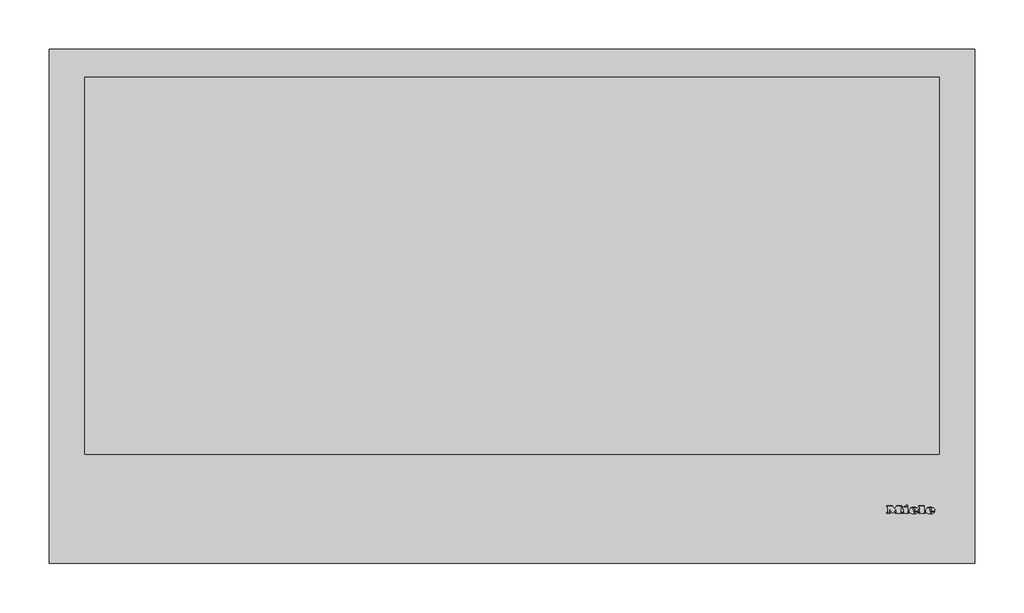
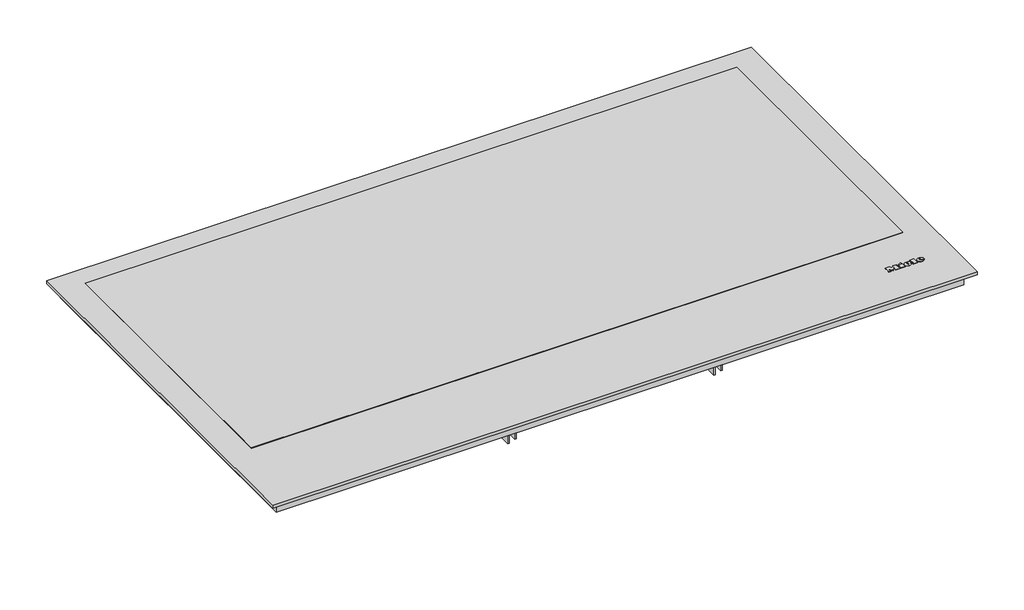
# Not in any storey: 1 proxy.
"""IFC4 building model written with IfcOpenShell, lengths in millimetres."""

import ifcopenshell
import ifcopenshell.guid

model = None  # the IFC model being written
_history = None  # IfcOwnerHistory: only IFC2X3 demands one
_inside = {}  # id of a spatial element -> (the spatial element, [elements in it])
_under = {}  # id of a project, library or spatial element -> (it, [spatial elements below it])
_declared = {}  # id of a project -> (the project, [libraries it declares])
_typed = {}  # id of a type object -> (the type object, [elements of that type])
_made_of = {}  # id of a material, layer set ... -> (it, [elements and type objects made of it])


def new_model(schema):
    """Start an empty IFC model of exactly this schema.

    Asked for "IFC4X3", IfcOpenShell would pick the latest addendum, in which some entities
    have other attributes; the version numbers below select the first issue.
    IFC2X3 requires an IfcOwnerHistory on every rooted entity: one is made here for all.
    """
    global model, _history
    if schema == "IFC4X3":
        model = ifcopenshell.file(schema_version=(4, 3, 0, 0))
    else:
        model = ifcopenshell.file(schema=schema)
    _inside.clear()
    _under.clear()
    _declared.clear()
    _typed.clear()
    _made_of.clear()
    _history = None
    if model.schema == "IFC2X3":
        org = make("IfcOrganization", Name="unknown")
        user = make(
            "IfcPersonAndOrganization",
            ThePerson=make("IfcPerson", FamilyName="unknown"),
            TheOrganization=org,
        )
        app = make(
            "IfcApplication",
            ApplicationDeveloper=org,
            Version="unknown",
            ApplicationFullName="unknown",
            ApplicationIdentifier="unknown",
        )
        _history = make(
            "IfcOwnerHistory",
            OwningUser=user,
            OwningApplication=app,
            ChangeAction="ADDED",
            CreationDate=0,
        )
    return model


def make(cls, **values):
    """One entity of the class cls with the attributes given. An attribute that is None is left unset."""
    return model.create_entity(
        cls, **{name: value for name, value in values.items() if value is not None}
    )


def rooted(cls, **values):
    """An entity with a GlobalId (a new one), such as an element, a storey or a relation."""
    return make(cls, GlobalId=ifcopenshell.guid.new(), OwnerHistory=_history, **values)


def si_unit(unit_type, name, prefix=None):
    """IfcSIUnit, for example si_unit("LENGTHUNIT", "METRE", prefix="MILLI")."""
    return make("IfcSIUnit", UnitType=unit_type, Prefix=prefix, Name=name)


def assignment(units):
    """IfcUnitAssignment: the units of a project."""
    return None if units is None else make("IfcUnitAssignment", Units=units)


def point(xyz):
    """IfcCartesianPoint."""
    return None if xyz is None else make("IfcCartesianPoint", Coordinates=xyz)


def direction(xyz):
    """IfcDirection."""
    return None if xyz is None else make("IfcDirection", DirectionRatios=xyz)


def frame(location, z_axis=None, x_axis=None):
    """IfcAxis2Placement3D, a coordinate frame: its origin and axes. An axis left out is left unset."""
    return make(
        "IfcAxis2Placement3D",
        Location=point(location),
        Axis=direction(z_axis),
        RefDirection=direction(x_axis),
    )


def frame_2d(location, x_axis=None):
    """IfcAxis2Placement2D, a coordinate frame in the plane: its origin and x axis."""
    return make(
        "IfcAxis2Placement2D", Location=point(location), RefDirection=direction(x_axis)
    )


def origin():
    """The frame at (0, 0, 0) with its axes left unset."""
    return frame((0.0, 0.0, 0.0))


def origin_with_axes():
    """The frame at (0, 0, 0) with the z axis (0, 0, 1) and the x axis (1, 0, 0) written out."""
    return frame((0.0, 0.0, 0.0), z_axis=(0.0, 0.0, 1.0), x_axis=(1.0, 0.0, 0.0))


def place(relative_to, where):
    """IfcLocalPlacement: puts the frame where relative to a parent placement (None: the world)."""
    return make(
        "IfcLocalPlacement", PlacementRelTo=relative_to, RelativePlacement=where
    )


def context(
    kind, dimensions, precision=None, world=None, true_north=None, identifier=None
):
    """IfcGeometricRepresentationContext, for example the 3D "Model" context."""
    return make(
        "IfcGeometricRepresentationContext",
        ContextIdentifier=identifier,
        ContextType=kind,
        CoordinateSpaceDimension=dimensions,
        Precision=precision,
        WorldCoordinateSystem=world,
        TrueNorth=true_north,
    )


def project(units=None, contexts=None):
    """IfcProject with its units and contexts."""
    return rooted(
        "IfcProject",
        Name="project",
        RepresentationContexts=contexts,
        UnitsInContext=assignment(units),
    )


def spatial(cls, under=None, at=None, **own):
    """A site, building, storey or space (cls), placed at a placement, below another one or the project."""
    s = rooted(cls, ObjectPlacement=at, **own)
    if under is not None:
        _under.setdefault(under.id(), (under, []))[1].append(s)
    return s


def polyline(points):
    """IfcPolyline through the points."""
    return make("IfcPolyline", Points=[point(p) for p in points])


def circle_curve(where, radius):
    """IfcCircle in the frame where."""
    return make("IfcCircle", Position=where, Radius=radius)


def ellipse_curve(where, semi_axis1, semi_axis2):
    """IfcEllipse in the frame where."""
    return make(
        "IfcEllipse", Position=where, SemiAxis1=semi_axis1, SemiAxis2=semi_axis2
    )


def trimmed(basis, trim1, trim2, sense, master):
    """IfcTrimmedCurve: the piece of a basis curve between two trims."""
    return make(
        "IfcTrimmedCurve",
        BasisCurve=basis,
        Trim1=trim1,
        Trim2=trim2,
        SenseAgreement=sense,
        MasterRepresentation=master,
    )


def segment(curve, same_sense, transition):
    """IfcCompositeCurveSegment."""
    return make(
        "IfcCompositeCurveSegment",
        Transition=transition,
        SameSense=same_sense,
        ParentCurve=curve,
    )


def composite_curve(segments, self_intersect=None):
    """IfcCompositeCurve: segments joined end to end."""
    return make("IfcCompositeCurve", Segments=segments, SelfIntersect=self_intersect)


def outline(outer, holes=None, kind="AREA"):
    """IfcArbitraryClosedProfileDef: a profile drawn as a closed curve; with holes, ...WithVoids."""
    if holes is None:
        return make("IfcArbitraryClosedProfileDef", ProfileType=kind, OuterCurve=outer)
    return make(
        "IfcArbitraryProfileDefWithVoids",
        ProfileType=kind,
        OuterCurve=outer,
        InnerCurves=holes,
    )


def extrude(swept, where, along, depth):
    """IfcExtrudedAreaSolid: the profile swept, set in the frame where, extruded along a direction by depth."""
    return make(
        "IfcExtrudedAreaSolid",
        SweptArea=swept,
        Position=where,
        ExtrudedDirection=direction(along),
        Depth=depth,
    )


def shape(context_of_items, identifier, shape_type, items):
    """IfcShapeRepresentation: the items that make up one representation, for example the "Body"."""
    return make(
        "IfcShapeRepresentation",
        ContextOfItems=context_of_items,
        RepresentationIdentifier=identifier,
        RepresentationType=shape_type,
        Items=items,
    )


def source(mapping_origin, context_of_items, identifier, shape_type, items):
    """IfcRepresentationMap: a shape defined once, which mapped items show again and again."""
    return make(
        "IfcRepresentationMap",
        MappingOrigin=mapping_origin,
        MappedRepresentation=shape(context_of_items, identifier, shape_type, items),
    )


def transform(
    local_origin,
    x_axis=None,
    y_axis=None,
    z_axis=None,
    scale=None,
    scale2=None,
    scale3=None,
    uniform=True,
):
    """IfcCartesianTransformationOperator3D, or its non-uniform kind. x_axis, y_axis, z_axis: its Axis1, 2, 3."""
    if uniform:
        return make(
            "IfcCartesianTransformationOperator3D",
            Axis1=direction(x_axis),
            Axis2=direction(y_axis),
            LocalOrigin=point(local_origin),
            Scale=scale,
            Axis3=direction(z_axis),
        )
    return make(
        "IfcCartesianTransformationOperator3DnonUniform",
        Axis1=direction(x_axis),
        Axis2=direction(y_axis),
        LocalOrigin=point(local_origin),
        Scale=scale,
        Axis3=direction(z_axis),
        Scale2=scale2,
        Scale3=scale3,
    )


def mapped(mapping_source, mapping_target):
    """IfcMappedItem: shows the shape of a source again, moved by a transform."""
    return make(
        "IfcMappedItem", MappingSource=mapping_source, MappingTarget=mapping_target
    )


def made_of(thing, what):
    """Note that an element or type object is made of a material, layer set ...; save() writes the relation."""
    if what is not None:
        _made_of.setdefault(what.id(), (what, []))[1].append(thing)
    return thing


def element(
    cls,
    number,
    at=None,
    inside=None,
    cuts=None,
    type_object=None,
    material=None,
    context=None,
    identifier="Body",
    shape_type=None,
    held_by="IfcProductDefinitionShape",
    body=None,
    shapes=None,
    **own,
):
    """One element of the class cls, such as IfcWall. Its Tag is "e" and its number.

    at: its placement. inside: the storey or other place that contains it. cuts: it is an
    opening in that element (IfcRelVoidsElement). A single representation is given by context,
    identifier, shape_type and body (its items); several are given by shapes. held_by: the class
    of the entity that holds the representations. save() writes the other relations.
    """
    e = rooted(cls, Tag="e%d" % number, ObjectPlacement=at, **own)
    if body is not None:
        shapes = [shape(context, identifier, shape_type, body)]
    if shapes is not None:
        e.Representation = make(held_by, Representations=shapes)
    if inside is not None:
        _inside.setdefault(inside.id(), (inside, []))[1].append(e)
    if cuts is not None:
        rooted(
            "IfcRelVoidsElement", RelatingBuildingElement=cuts, RelatedOpeningElement=e
        )
    if type_object is not None:
        _typed.setdefault(type_object.id(), (type_object, []))[1].append(e)
    return made_of(e, material)


def aggregate(whole, parts):
    """IfcRelAggregates: a whole, such as a stair, and the parts it consists of."""
    return rooted("IfcRelAggregates", RelatingObject=whole, RelatedObjects=parts)


def save(model, path):
    """Write the relations noted so far, then the file.

    IfcRelAggregates (storeys below a building ...), IfcRelContainedInSpatialStructure (elements
    in a storey), IfcRelDefinesByType, IfcRelAssociatesMaterial and IfcRelDeclares: one each for
    every whole, place, type object, material and project.
    """
    for whole, parts in _under.values():
        aggregate(whole, parts)
    for where, things in _inside.values():
        rooted(
            "IfcRelContainedInSpatialStructure",
            RelatedElements=things,
            RelatingStructure=where,
        )
    for kind, things in _typed.values():
        rooted("IfcRelDefinesByType", RelatedObjects=things, RelatingType=kind)
    for what, things in _made_of.values():
        rooted("IfcRelAssociatesMaterial", RelatedObjects=things, RelatingMaterial=what)
    for by, libraries in _declared.values():
        rooted("IfcRelDeclares", RelatingContext=by, RelatedDefinitions=libraries)
    model.write(path)


def plane_surface(at):
    """IfcPlane: the flat surface through the origin of the frame at, square to its z axis."""
    return make("IfcPlane", Position=at)


def cylinder_surface(at, radius):
    """IfcCylindricalSurface: all points at the distance radius from the z axis of the frame at."""
    return make("IfcCylindricalSurface", Position=at, Radius=radius)


def revolved_surface(curve, axis_point, axis_direction):
    """IfcSurfaceOfRevolution: the curve turned about the line through axis_point along axis_direction."""
    return make(
        "IfcSurfaceOfRevolution",
        SweptCurve=make("IfcArbitraryOpenProfileDef", ProfileType="CURVE", Curve=curve),
        AxisPosition=make("IfcAxis1Placement", Location=point(axis_point), Axis=direction(axis_direction)),
    )


def extruded_surface(curve, direction_of_extrusion, depth):
    """IfcSurfaceOfLinearExtrusion: the curve pushed along a direction by depth."""
    return make(
        "IfcSurfaceOfLinearExtrusion",
        SweptCurve=make("IfcArbitraryOpenProfileDef", ProfileType="CURVE", Curve=curve),
        ExtrudedDirection=direction(direction_of_extrusion),
        Depth=depth,
    )


def advanced_brep(points, edges, surfaces, faces):
    """IfcAdvancedBrep: a solid bounded by faces that lie on surfaces and meet in shared edges.

    An edge is (start, end): straight between two places in points (the first is 0);
    or (start, end, curve); or (start, end, curve, False) where it runs against its curve.
    A face is (place in surfaces, loops), or (place, loops, False) where it looks against
    its surface's normal. A loop lists edges by number (the first is 1), with a minus sign
    where the edge is run from its end to its start. The first loop is the outer one.
    """
    corners = [point(p) for p in points]
    vertices = [make("IfcVertexPoint", VertexGeometry=c) for c in corners]
    made = []
    for start, end, *more in edges:
        made.append(
            make(
                "IfcEdgeCurve",
                EdgeStart=vertices[start],
                EdgeEnd=vertices[end],
                EdgeGeometry=more[0] if more else make("IfcPolyline", Points=[corners[start], corners[end]]),
                SameSense=more[1] if len(more) > 1 else True,
            )
        )
    hull = []
    for where, loops, *sense in faces:
        bounds = []
        for j, loop in enumerate(loops):
            ring = [make("IfcOrientedEdge", EdgeElement=made[abs(k) - 1], Orientation=k > 0) for k in loop]
            bounds.append(
                make(
                    "IfcFaceOuterBound" if j == 0 else "IfcFaceBound",
                    Bound=make("IfcEdgeLoop", EdgeList=ring),
                    Orientation=True,
                )
            )
        hull.append(make("IfcAdvancedFace", Bounds=bounds, FaceSurface=surfaces[where], SameSense=sense[0] if sense else True))
    return make("IfcAdvancedBrep", Outer=make("IfcClosedShell", CfsFaces=hull))


def specialty_equipment_1c5c3643(model_context):
    return source(origin(), model_context, "Body", "SolidModel", [
        advanced_brep(
        [(422.56, 52.3948833, 4.4802537), (422.56, 53.2028828, 4.4811551), (427.912, 53.2028828, 4.4811551), (418.6, 53.2028828, 4.4811551), (420.8, 50.4988845, 4.4781386), (427.776, 52.3948833, 4.4802537), (425.36, 52.3948833, 4.4802537), (423.456, 51.4988838, 4.4792542), (422.56, 54.2268821, 4.4822974), (422.56, 55.0988816, 4.4832701), (423.928, 55.0988816, 4.4832701), (423.928, 54.2268821, 4.4822974), (422.56, 52.3959988, 3.4802543), (423.456, 51.4999994, 3.4792548), (425.36, 52.3959988, 3.4802543), (427.776, 52.3959988, 3.4802543), (420.8, 50.5, 3.4781393), (418.6, 53.2039983, 3.4811557), (427.912, 53.2039983, 3.4811557), (422.56, 53.2039983, 3.4811557), (422.56, 54.2279977, 3.482298), (423.928, 54.2279977, 3.482298), (423.928, 55.0999971, 3.4832707), (422.56, 55.0999971, 3.4832707)],
        [
            (0, 1),
            (1, 2),
            (2, 3, ellipse_curve(frame((423.256, 53.2028828, 4.4811551), z_axis=(0.0, -0.0011155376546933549, 0.9999993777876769), x_axis=(-1.0, 0.0, 0.0)), 4.656, 3.848)),
            (3, 4, circle_curve(frame((421.6960436, 53.4748826, 4.4814585), z_axis=(0.0, -0.0011155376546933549, 0.9999993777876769), x_axis=(0.0, -0.9999993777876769, -0.0011155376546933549)), 3.1079688)),
            (4, 5, circle_curve(frame((423.1627936, 55.5868813, 4.4838145), z_axis=(0.0, -0.0011155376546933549, 0.9999993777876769), x_axis=(0.0, -0.9999993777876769, -0.0011155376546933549)), 5.6098607)),
            (5, 6),
            (6, 7, circle_curve(frame((423.8470588, 53.1388828, 4.4810837), z_axis=(0.0, 0.0011155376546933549, -0.9999993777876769), x_axis=(0.0, -0.9999993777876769, -0.0011155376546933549)), 1.6859795)),
            (7, 0, circle_curve(frame((423.456, 52.3948833, 4.4802537), z_axis=(0.0, 0.0011155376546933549, -0.9999993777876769), x_axis=(0.0, -0.9999993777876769, -0.0011155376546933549)), 0.896)),
            (8, 9),
            (9, 10, circle_curve(frame((423.244, 55.0988816, 4.4832701), z_axis=(0.0, 0.0011155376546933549, -0.9999993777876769), x_axis=(0.0, -0.9999993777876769, -0.0011155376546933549)), 0.684)),
            (10, 11),
            (11, 8),
            (12, 13, circle_curve(frame((423.456, 52.3959988, 3.4802543), z_axis=(0.0, -0.0011155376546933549, 0.9999993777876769), x_axis=(0.0, -0.9999993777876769, -0.0011155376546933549)), 0.896)),
            (13, 14, circle_curve(frame((423.8470588, 53.1399984, 3.4810843), z_axis=(0.0, -0.0011155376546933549, 0.9999993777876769), x_axis=(0.0, -0.9999993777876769, -0.0011155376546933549)), 1.6859795)),
            (14, 15),
            (15, 16, circle_curve(frame((423.1627936, 55.5879968, 3.4838151), z_axis=(0.0, 0.0011155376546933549, -0.9999993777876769), x_axis=(0.0, -0.9999993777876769, -0.0011155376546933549)), 5.6098607)),
            (16, 17, circle_curve(frame((421.6960436, 53.4759981, 3.4814591), z_axis=(0.0, 0.0011155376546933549, -0.9999993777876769), x_axis=(0.0, -0.9999993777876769, -0.0011155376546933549)), 3.1079688)),
            (17, 18, ellipse_curve(frame((423.256, 53.2039983, 3.4811557), z_axis=(0.0, 0.0011155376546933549, -0.9999993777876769), x_axis=(-1.0, 0.0, 0.0)), 4.656, 3.848)),
            (18, 19),
            (19, 12),
            (20, 21),
            (21, 22),
            (22, 23, circle_curve(frame((423.244, 55.0999971, 3.4832707), z_axis=(0.0, -0.0011155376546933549, 0.9999993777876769), x_axis=(0.0, -0.9999993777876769, -0.0011155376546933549)), 0.684)),
            (23, 20),
            (0, 12),
            (19, 1),
            (18, 2),
            (5, 15),
            (14, 6),
            (17, 3),
            (13, 7),
            (16, 4),
            (8, 20),
            (23, 9),
            (22, 10),
            (21, 11),
        ],
        [
            plane_surface(frame((422.56, 53.2028828, 4.4811551), z_axis=(0.0, -0.0011155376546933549, 0.9999993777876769), x_axis=(0.0, 0.9999993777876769, 0.0011155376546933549))),
            plane_surface(frame((422.56, 53.2039983, 3.4811557), z_axis=(0.0, 0.0011155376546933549, -0.9999993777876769), x_axis=(0.0, -0.9999993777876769, -0.0011155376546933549))),
            plane_surface(frame((422.56, 52.3948833, 4.4802537), z_axis=(1.0000000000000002, 0.0, 0.0), x_axis=(0.0, 0.001115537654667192, -0.999999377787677))),
            plane_surface(frame((422.56, 53.2028828, 4.4811551), z_axis=(0.0, -0.999999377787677, -0.001115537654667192), x_axis=(0.0, 0.001115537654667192, -0.999999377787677))),
            plane_surface(frame((427.776, 52.3948833, 4.4802537), z_axis=(0.0, 0.999999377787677, 0.001115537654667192), x_axis=(0.0, 0.001115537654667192, -0.999999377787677))),
            extruded_surface(trimmed(ellipse_curve(frame((423.256, 53.2051139, 2.4811563), z_axis=(0.0, -0.0011155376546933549, 0.9999993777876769), x_axis=(-1.0, 0.0, 0.0)), 4.656, 3.848), [point((427.912, 53.2051139, 2.4811563))], [point((418.6, 53.2051139, 2.4811563))], True, "CARTESIAN"), (0.0, -0.001115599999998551, 0.9999994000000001), 1.00000002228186),
            revolved_surface(polyline([(423.8470588, 51.454019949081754, 3.479203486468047), (423.8470588, 51.45290441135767, 4.4792029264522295)]), (423.8470588, 53.1399984, 3.4810843), (0.0, 0.0011155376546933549, -0.9999993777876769)),
            revolved_surface(polyline([(423.456, 51.49999935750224, 3.4792547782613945), (423.456, 51.49888381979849, 4.479254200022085)]), (423.456, 52.3959988, 3.4802543), (0.0, 0.0011155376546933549, -0.9999993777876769)),
            cylinder_surface(frame((421.6960436, 53.4759981, 3.4814591), z_axis=(0.0, -0.0011155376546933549, 0.9999993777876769), x_axis=(0.0, -0.9999993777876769, -0.0011155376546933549)), 3.1079688),
            cylinder_surface(frame((423.1627936, 55.5879968, 3.4838151), z_axis=(0.0, -0.0011155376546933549, 0.9999993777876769), x_axis=(0.0, -0.9999993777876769, -0.0011155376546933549)), 5.6098607),
            plane_surface(frame((422.56, 54.2268821, 4.4822974), z_axis=(1.0000000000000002, 0.0, 0.0), x_axis=(0.0, 0.001115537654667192, -0.999999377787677))),
            revolved_surface(polyline([(423.244, 54.415997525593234, 3.4825076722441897), (423.244, 54.41488198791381, 4.482507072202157)]), (423.244, 55.0999971, 3.4832707), (0.0, 0.0011155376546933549, -0.9999993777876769)),
            plane_surface(frame((423.928, 55.0988816, 4.4832701), z_axis=(-1.0000000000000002, 0.0, 0.0), x_axis=(0.0, 0.001115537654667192, -0.999999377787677))),
            plane_surface(frame((423.928, 54.2268821, 4.4822974), z_axis=(0.0, 0.999999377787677, 0.001115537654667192), x_axis=(0.0, 0.001115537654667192, -0.999999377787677))),
        ],
        [
            (0, [[1, 2, 3, 4, 5, 6, 7, 8], [9, 10, 11, 12]]),
            (1, [[13, 14, 15, 16, 17, 18, 19, 20], [21, 22, 23, 24]]),
            (2, [[-1, 25, -20, 26]]),
            (3, [[-2, -26, -19, 27]]),
            (4, [[-6, 28, -15, 29]]),
            (5, [[-3, -27, -18, 30]]),
            (6, [[-7, -29, -14, 31]]),
            (7, [[-8, -31, -13, -25]]),
            (8, [[-4, -30, -17, 32]]),
            (9, [[-5, -32, -16, -28]]),
            (10, [[-9, 33, -24, 34]]),
            (11, [[-10, -34, -23, 35]]),
            (12, [[-11, -35, -22, 36]]),
            (13, [[-12, -36, -21, -33]]),
        ],
    ),
        advanced_brep(
        [(405.864, 52.3948833, 4.4802537), (405.864, 53.2028828, 4.4811551), (411.216, 53.2028828, 4.4811551), (401.904, 53.2028828, 4.4811551), (404.104, 50.4988845, 4.4781386), (411.08, 52.3948833, 4.4802537), (408.664, 52.3948833, 4.4802537), (406.76, 51.4988838, 4.4792542), (405.864, 54.2268821, 4.4822974), (405.864, 55.0988816, 4.4832701), (407.232, 55.0988816, 4.4832701), (407.232, 54.2268821, 4.4822974), (405.864, 52.3959988, 3.4802543), (406.76, 51.4999994, 3.4792548), (408.664, 52.3959988, 3.4802543), (411.08, 52.3959988, 3.4802543), (404.104, 50.5, 3.4781393), (401.904, 53.2039983, 3.4811557), (411.216, 53.2039983, 3.4811557), (405.864, 53.2039983, 3.4811557), (405.864, 54.2279977, 3.482298), (407.232, 54.2279977, 3.482298), (407.232, 55.0999971, 3.4832707), (405.864, 55.0999971, 3.4832707)],
        [
            (0, 1),
            (1, 2),
            (2, 3, ellipse_curve(frame((406.56, 53.2028828, 4.4811551), z_axis=(0.0, -0.0011155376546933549, 0.9999993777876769), x_axis=(-1.0, 0.0, 0.0)), 4.656, 3.848)),
            (3, 4, circle_curve(frame((405.0000436, 53.4748826, 4.4814585), z_axis=(0.0, -0.0011155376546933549, 0.9999993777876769), x_axis=(0.0, -0.9999993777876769, -0.0011155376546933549)), 3.1079688)),
            (4, 5, circle_curve(frame((406.4667936, 55.5868813, 4.4838145), z_axis=(0.0, -0.0011155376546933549, 0.9999993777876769), x_axis=(0.0, -0.9999993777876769, -0.0011155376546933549)), 5.6098607)),
            (5, 6),
            (6, 7, circle_curve(frame((407.1510588, 53.1388828, 4.4810837), z_axis=(0.0, 0.0011155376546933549, -0.9999993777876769), x_axis=(0.0, -0.9999993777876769, -0.0011155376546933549)), 1.6859795)),
            (7, 0, circle_curve(frame((406.76, 52.3948833, 4.4802537), z_axis=(0.0, 0.0011155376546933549, -0.9999993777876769), x_axis=(0.0, -0.9999993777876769, -0.0011155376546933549)), 0.896)),
            (8, 9),
            (9, 10, circle_curve(frame((406.548, 55.0988816, 4.4832701), z_axis=(0.0, 0.0011155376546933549, -0.9999993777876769), x_axis=(0.0, -0.9999993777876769, -0.0011155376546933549)), 0.684)),
            (10, 11),
            (11, 8),
            (12, 13, circle_curve(frame((406.76, 52.3959988, 3.4802543), z_axis=(0.0, -0.0011155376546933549, 0.9999993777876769), x_axis=(0.0, -0.9999993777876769, -0.0011155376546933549)), 0.896)),
            (13, 14, circle_curve(frame((407.1510588, 53.1399984, 3.4810843), z_axis=(0.0, -0.0011155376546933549, 0.9999993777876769), x_axis=(0.0, -0.9999993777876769, -0.0011155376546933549)), 1.6859795)),
            (14, 15),
            (15, 16, circle_curve(frame((406.4667936, 55.5879968, 3.4838151), z_axis=(0.0, 0.0011155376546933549, -0.9999993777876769), x_axis=(0.0, -0.9999993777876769, -0.0011155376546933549)), 5.6098607)),
            (16, 17, circle_curve(frame((405.0000436, 53.4759981, 3.4814591), z_axis=(0.0, 0.0011155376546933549, -0.9999993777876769), x_axis=(0.0, -0.9999993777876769, -0.0011155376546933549)), 3.1079688)),
            (17, 18, ellipse_curve(frame((406.56, 53.2039983, 3.4811557), z_axis=(0.0, 0.0011155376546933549, -0.9999993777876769), x_axis=(-1.0, 0.0, 0.0)), 4.656, 3.848)),
            (18, 19),
            (19, 12),
            (20, 21),
            (21, 22),
            (22, 23, circle_curve(frame((406.548, 55.0999971, 3.4832707), z_axis=(0.0, -0.0011155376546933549, 0.9999993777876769), x_axis=(0.0, -0.9999993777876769, -0.0011155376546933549)), 0.684)),
            (23, 20),
            (0, 12),
            (19, 1),
            (18, 2),
            (5, 15),
            (14, 6),
            (17, 3),
            (13, 7),
            (16, 4),
            (8, 20),
            (23, 9),
            (22, 10),
            (21, 11),
        ],
        [
            plane_surface(frame((405.864, 53.2028828, 4.4811551), z_axis=(0.0, -0.0011155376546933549, 0.9999993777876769), x_axis=(0.0, 0.9999993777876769, 0.0011155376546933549))),
            plane_surface(frame((405.864, 53.2039983, 3.4811557), z_axis=(0.0, 0.0011155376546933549, -0.9999993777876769), x_axis=(0.0, -0.9999993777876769, -0.0011155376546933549))),
            plane_surface(frame((405.864, 52.3948833, 4.4802537), z_axis=(1.0000000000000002, 0.0, 0.0), x_axis=(0.0, 0.001115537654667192, -0.999999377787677))),
            plane_surface(frame((405.864, 53.2028828, 4.4811551), z_axis=(0.0, -0.999999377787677, -0.001115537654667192), x_axis=(0.0, 0.001115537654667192, -0.999999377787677))),
            plane_surface(frame((411.08, 52.3948833, 4.4802537), z_axis=(0.0, 0.999999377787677, 0.001115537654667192), x_axis=(0.0, 0.001115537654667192, -0.999999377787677))),
            extruded_surface(trimmed(ellipse_curve(frame((406.56, 53.2051139, 2.4811563), z_axis=(0.0, -0.0011155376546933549, 0.9999993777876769), x_axis=(-1.0, 0.0, 0.0)), 4.656, 3.848), [point((411.216, 53.2051139, 2.4811563))], [point((401.904, 53.2051139, 2.4811563))], True, "CARTESIAN"), (0.0, -0.001115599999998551, 0.9999994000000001), 1.00000002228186),
            revolved_surface(polyline([(407.1510588, 51.454019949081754, 3.479203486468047), (407.1510588, 51.45290441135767, 4.4792029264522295)]), (407.1510588, 53.1399984, 3.4810843), (0.0, 0.0011155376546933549, -0.9999993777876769)),
            revolved_surface(polyline([(406.76, 51.49999935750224, 3.4792547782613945), (406.76, 51.49888381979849, 4.479254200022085)]), (406.76, 52.3959988, 3.4802543), (0.0, 0.0011155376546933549, -0.9999993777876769)),
            cylinder_surface(frame((405.0000436, 53.4759981, 3.4814591), z_axis=(0.0, -0.0011155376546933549, 0.9999993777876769), x_axis=(0.0, -0.9999993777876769, -0.0011155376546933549)), 3.1079688),
            cylinder_surface(frame((406.4667936, 55.5879968, 3.4838151), z_axis=(0.0, -0.0011155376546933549, 0.9999993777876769), x_axis=(0.0, -0.9999993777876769, -0.0011155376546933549)), 5.6098607),
            plane_surface(frame((405.864, 54.2268821, 4.4822974), z_axis=(1.0000000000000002, 0.0, 0.0), x_axis=(0.0, 0.001115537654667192, -0.999999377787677))),
            revolved_surface(polyline([(406.548, 54.415997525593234, 3.4825076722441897), (406.548, 54.41488198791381, 4.482507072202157)]), (406.548, 55.0999971, 3.4832707), (0.0, 0.0011155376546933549, -0.9999993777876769)),
            plane_surface(frame((407.232, 55.0988816, 4.4832701), z_axis=(-1.0000000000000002, 0.0, 0.0), x_axis=(0.0, 0.001115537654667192, -0.999999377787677))),
            plane_surface(frame((407.232, 54.2268821, 4.4822974), z_axis=(0.0, 0.999999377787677, 0.001115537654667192), x_axis=(0.0, 0.001115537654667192, -0.999999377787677))),
        ],
        [
            (0, [[1, 2, 3, 4, 5, 6, 7, 8], [9, 10, 11, 12]]),
            (1, [[13, 14, 15, 16, 17, 18, 19, 20], [21, 22, 23, 24]]),
            (2, [[-1, 25, -20, 26]]),
            (3, [[-2, -26, -19, 27]]),
            (4, [[-6, 28, -15, 29]]),
            (5, [[-3, -27, -18, 30]]),
            (6, [[-7, -29, -14, 31]]),
            (7, [[-8, -31, -13, -25]]),
            (8, [[-4, -30, -17, 32]]),
            (9, [[-5, -32, -16, -28]]),
            (10, [[-9, 33, -24, 34]]),
            (11, [[-10, -34, -23, 35]]),
            (12, [[-11, -35, -22, 36]]),
            (13, [[-12, -36, -21, -33]]),
        ],
    ),
        extrude(outline(polyline([(0.0, 0.0), (-0.0109086, -2.9993294), (-1.4390415, -2.9920868), (-1.4315307, 0.0), (0.0, 0.0)])), frame((397.12, 58.0279953, 3.486537), z_axis=(0.0, -0.001115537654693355, 0.999999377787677), x_axis=(-0.4247202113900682, 0.9053240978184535, 0.0010099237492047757)), (0.0, 0.0, 1.0), 1.0),
        extrude(outline(polyline([(-0.4933908, 2.4141097), (-2.7800844, -2.4601583), (-7.0459741, -0.4588767), (-7.4401145, -1.299018), (-8.6568709, -0.728194), (-5.9760369, 4.9862153), (-4.7592805, 4.4153913), (-5.1636142, 3.5535222), (-2.1941493, 2.1604399), (-1.7898157, 3.022309), (-0.4933908, 2.4141097)])), frame((397.12, 58.0279953, 3.486537), z_axis=(0.0, -0.001115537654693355, 0.999999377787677), x_axis=(-0.4247202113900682, 0.9053240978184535, 0.0010099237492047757)), (0.0, 0.0, 1.0), 1.0),
        extrude(outline(polyline([(0.0, 0.0), (0.0, -1.304), (-5.504, -1.304), (-5.504, 5.3519999), (-6.488, 5.3519999), (-6.488, 6.696), (0.0, 6.696), (0.0, 5.3519999), (-0.96, 5.3519999), (-0.96, 0.0), (0.0, 0.0)])), frame((411.664, 57.1959958, 3.4856089), z_axis=(0.0, -0.0011155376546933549, 0.9999993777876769), x_axis=(-1.0, 0.0, 0.0)), (0.0, 0.0, 1.0), 1.0),
        extrude(outline(polyline([(0.0, 0.0), (0.0, -1.304), (-5.576, -1.304), (-7.92, 1.696), (-10.256, -1.304), (-15.128, -1.304), (-15.128, 0.0), (-14.112, 0.0), (-14.112, 5.3519999), (-15.128, 5.3519999), (-15.128, 6.696), (-8.744, 6.696), (-8.744, 5.3519999), (-9.728, 5.3519999), (-9.728, 1.8807777), (-6.136, 6.696), (-2.56, 1.9488752), (-2.56, 5.3519999), (-3.52, 5.3519999), (-3.52, 6.696), (0.0, 6.696), (0.0, 5.3519999), (-0.968, 5.3519999), (-0.968, 0.0), (0.0, 0.0)])), frame((379.2, 57.1959958, 3.4856089), z_axis=(0.0, -0.0011155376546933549, 0.9999993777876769), x_axis=(-1.0, 0.0, 0.0)), (0.0, 0.0, 1.0), 1.0),
        extrude(outline(polyline([(354.2772603, 459.5), (346.9, 459.5), (346.9, 460.7557039), (353.0215564, 460.7557039), (353.0215564, 464.0519266), (347.370889, 464.0519266), (347.370889, 465.3076304), (353.0215564, 465.3076304), (353.0215564, 468.2899271), (347.056963, 468.2899271), (347.056963, 469.545631), (354.2772603, 469.545631), (354.2772603, 459.5)])), frame((0.0, 0.0, -77.5), z_axis=(0.0, 0.0, 1.0), x_axis=(1.0, 0.0, 0.0)), (0.0, 0.0, 1.0), 1.0),
        extrude(outline(polyline([(345.0164442, 459.5), (338.7379248, 459.5), (338.7379248, 460.7557039), (343.7607403, 460.7557039), (343.7607403, 469.545631), (345.0164442, 469.545631), (345.0164442, 459.5)])), frame((0.0, 0.0, -77.5), z_axis=(0.0, 0.0, 1.0), x_axis=(1.0, 0.0, 0.0)), (0.0, 0.0, 1.0), 1.0),
        extrude(outline(polyline([(14.0, -27.0), (14.0, -16.8), (58.0, -16.8), (58.0, -43.0), (30.0, -43.0), (30.0, -27.0), (14.0, -27.0)])), frame((135.3333333, 0.0, 0.0), z_axis=(1.0, 0.0, 0.0), x_axis=(0.0, 1.0, 0.0)), (0.0, 0.0, 1.0), 2.0),
        extrude(outline(polyline([(478.0, -16.8), (506.0, -16.8), (506.0, -27.0), (490.0, -27.0), (490.0, -43.0), (478.0, -43.0), (478.0, -16.8)])), frame((135.3333333, 0.0, 0.0), z_axis=(1.0, 0.0, 0.0), x_axis=(0.0, 1.0, 0.0)), (0.0, 0.0, 1.0), 2.0),
        extrude(outline(polyline([(14.0, -27.0), (14.0, -16.8), (58.0, -16.8), (58.0, -43.0), (30.0, -43.0), (30.0, -27.0), (14.0, -27.0)])), frame((-138.3333333, 0.0, 0.0), z_axis=(1.0, 0.0, 0.0), x_axis=(0.0, 1.0, 0.0)), (0.0, 0.0, 1.0), 2.0),
        extrude(outline(polyline([(490.0, -27.0), (490.0, -43.0), (478.0, -43.0), (478.0, -16.8), (506.0, -16.8), (506.0, -27.0), (490.0, -27.0)])), frame((-138.3333333, 0.0, 0.0), z_axis=(1.0, 0.0, 0.0), x_axis=(0.0, 1.0, 0.0)), (0.0, 0.0, 1.0), 2.0),
        extrude(outline(polyline([(409.0, 478.0), (409.0, 58.0), (-409.0, 58.0), (-409.0, 478.0), (409.0, 478.0)])), frame((0.0, 0.0, -46.5), z_axis=(0.0, 0.0, 1.0), x_axis=(1.0, 0.0, 0.0)), (0.0, 0.0, 1.0), 29.7),
        extrude(outline(polyline([(468.0, 520.0), (468.0, 0.0), (-468.0, 0.0), (-468.0, 520.0), (468.0, 520.0)])), origin_with_axes(), (0.0, 0.0, 1.0), 4.0),
        extrude(outline(polyline([(456.5, 508.5), (456.5, 11.5), (-456.5, 11.5), (-456.5, 508.5), (456.5, 508.5)])), frame((0.0, 0.0, -16.8), z_axis=(0.0, 0.0, 1.0), x_axis=(1.0, 0.0, 0.0)), (0.0, 0.0, 1.0), 16.8),
        extrude(outline(composite_curve([segment(trimmed(circle_curve(frame_2d((346.9, 464.5)), 7.5), [point((346.9, 472.0))], [point((346.9, 457.0))], False, "CARTESIAN"), True, "CONTINUOUS"), segment(trimmed(circle_curve(frame_2d((346.9, 464.5)), 7.5), [point((346.9, 457.0))], [point((346.9, 472.0))], False, "CARTESIAN"), True, "CONTINUOUS")], self_intersect=False)), frame((0.0, 0.0, -76.5), z_axis=(0.0, 0.0, 1.0), x_axis=(1.0, 0.0, 0.0)), (0.0, 0.0, 1.0), 30.0),
        extrude(outline(polyline([(432.5, 492.05), (432.5, 110.55), (-432.5, 110.55), (-432.5, 492.05), (432.5, 492.05)])), frame((0.0, 0.0, 4.0), z_axis=(0.0, 0.0, 1.0), x_axis=(1.0, 0.0, 0.0)), (0.0, 0.0, 1.0), 1.0),
        extrude(outline(composite_curve([segment(trimmed(circle_curve(frame_2d((-449.0, 80.0)), 3.0), [point((-449.0, 83.0))], [point((-449.0, 77.0))], False, "CARTESIAN"), True, "CONTINUOUS"), segment(trimmed(circle_curve(frame_2d((-449.0, 80.0)), 3.0), [point((-449.0, 77.0))], [point((-449.0, 83.0))], False, "CARTESIAN"), True, "CONTINUOUS")], self_intersect=False)), frame((0.0, 0.0, -22.0), z_axis=(0.0, 0.0, 1.0), x_axis=(1.0, 0.0, 0.0)), (0.0, 0.0, 1.0), 5.2),
        extrude(outline(composite_curve([segment(trimmed(circle_curve(frame_2d((449.0, 440.0)), 3.0), [point((449.0, 443.0))], [point((449.0, 437.0))], False, "CARTESIAN"), True, "CONTINUOUS"), segment(trimmed(circle_curve(frame_2d((449.0, 440.0)), 3.0), [point((449.0, 437.0))], [point((449.0, 443.0))], False, "CARTESIAN"), True, "CONTINUOUS")], self_intersect=False)), frame((0.0, 0.0, -22.0), z_axis=(0.0, 0.0, 1.0), x_axis=(1.0, 0.0, 0.0)), (0.0, 0.0, 1.0), 5.2),
    ])


model = new_model("IFC4")

# Units and contexts
model_context = context("Model", 3, world=origin())
ifc_project = project(units=[si_unit("LENGTHUNIT", "METRE", prefix="MILLI")], contexts=[model_context])

# Site, building
site = spatial("IfcSite", under=ifc_project)
building = spatial("IfcBuilding", under=site)

# Proxy
placement = place(None, origin())
specialty_equipment_shape = specialty_equipment_1c5c3643(model_context)
element("IfcBuildingElementProxy", 1, Name="12275760_DFS_KM7897-1FL : 26789773_DFS_12275760_KM7897-1FL", ObjectType="12275760_DFS_KM7897-1FL : 26789773_DFS_12275760_KM7897-1FL", at=placement, inside=building, context=model_context, shape_type="MappedRepresentation", body=[
    mapped(specialty_equipment_shape, transform((0.0, 0.0, 0.0), x_axis=(1.0, 0.0, 0.0), y_axis=(0.0, 1.0, 0.0), z_axis=(0.0, 0.0, 1.0))),
])

save(model, "model.ifc")
